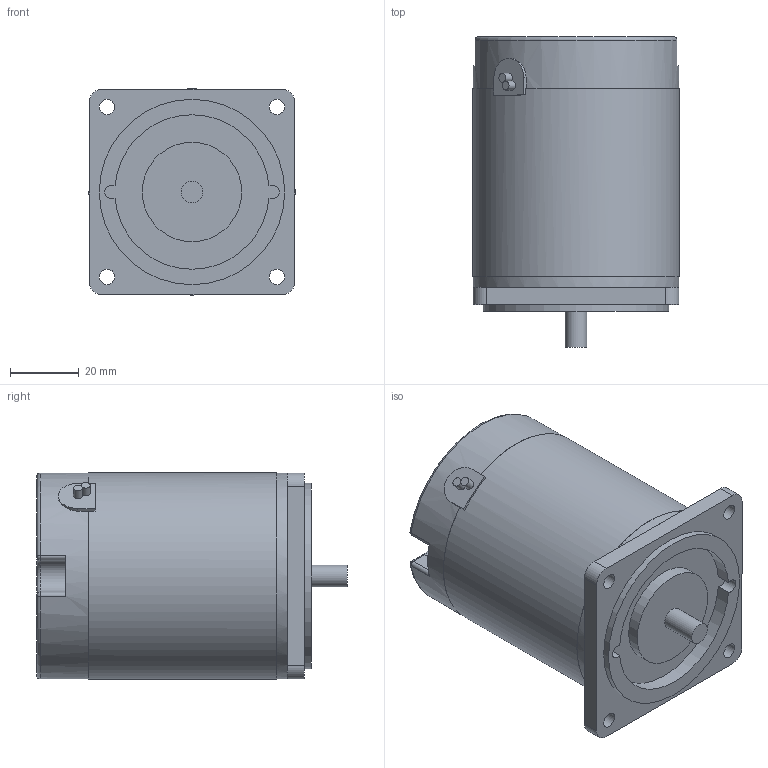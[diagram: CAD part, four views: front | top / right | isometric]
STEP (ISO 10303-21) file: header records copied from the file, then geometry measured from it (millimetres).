
FILE_DESCRIPTION((''),'2;1');
FILE_NAME('E:\2공장-도면\3D\표준형 3D()\step\K6DG6N.stp','2014-11-13T09:20:24',('AHN'),(''),'Autodesk Inventor 2012','Autodesk Inventor 2012','');
FILE_SCHEMA(('CONFIG_CONTROL_DESIGN'));
Length unit declared in the file: millimetre
Products named in the file (1): K6DG6N
Bounding box: 60.1 x 90.5 x 60.1 mm (x, y, z)
Volume: 223480.2 mm3; surface area: 24058 mm2
Topology: 1 solids, 1 shells, 67 faces, 155 edges, 94 vertices
Faces by surface type: cylinder 31, plane 28, torus 4, sphere 4
Full cylindrical faces by diameter (mm): 2.6 x2, 4.5 x4, 6.34 x1, 29 x1, 54 x1, 60 x2, 60.1 x1
Entity records: 1876 total; most frequent: DIRECTION 351, CARTESIAN_POINT 315, ORIENTED_EDGE 280, AXIS2_PLACEMENT_3D 144, EDGE_CURVE 140, EDGE_LOOP 91, VERTEX_POINT 90, CIRCLE 76
